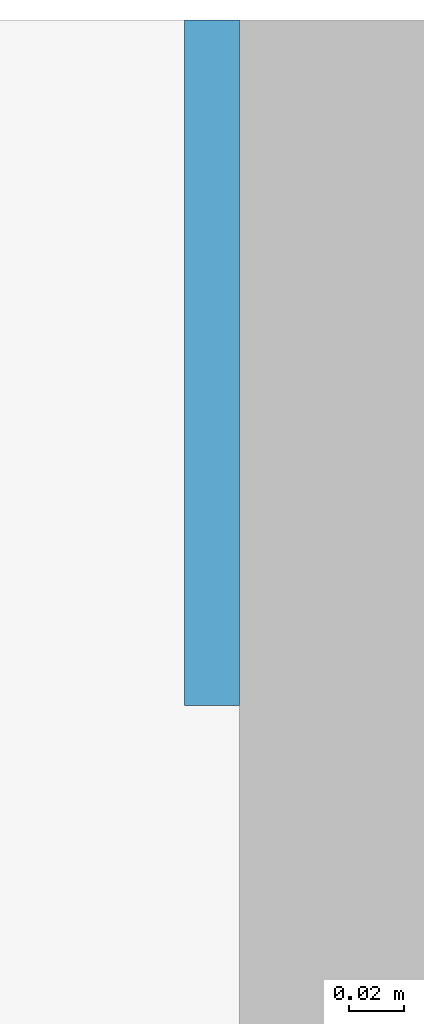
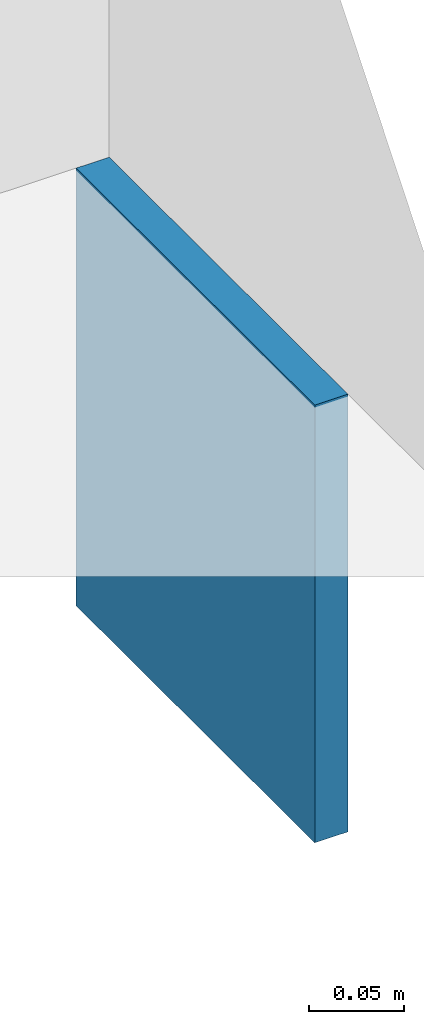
# One storey, part 8 of 8: 1 wall, 1 opening.
"""IFC2X3 building model written with IfcOpenShell, lengths in millimetres."""

import ifcopenshell
import ifcopenshell.guid

model = None  # the IFC model being written
_history = None  # IfcOwnerHistory: only IFC2X3 demands one
_inside = {}  # id of a spatial element -> (the spatial element, [elements in it])
_under = {}  # id of a project, library or spatial element -> (it, [spatial elements below it])
_declared = {}  # id of a project -> (the project, [libraries it declares])
_typed = {}  # id of a type object -> (the type object, [elements of that type])
_made_of = {}  # id of a material, layer set ... -> (it, [elements and type objects made of it])


def new_model(schema):
    """Start an empty IFC model of exactly this schema.

    Asked for "IFC4X3", IfcOpenShell would pick the latest addendum, in which some entities
    have other attributes; the version numbers below select the first issue.
    IFC2X3 requires an IfcOwnerHistory on every rooted entity: one is made here for all.
    """
    global model, _history
    if schema == "IFC4X3":
        model = ifcopenshell.file(schema_version=(4, 3, 0, 0))
    else:
        model = ifcopenshell.file(schema=schema)
    _inside.clear()
    _under.clear()
    _declared.clear()
    _typed.clear()
    _made_of.clear()
    _history = None
    if model.schema == "IFC2X3":
        org = make("IfcOrganization", Name="unknown")
        user = make(
            "IfcPersonAndOrganization",
            ThePerson=make("IfcPerson", FamilyName="unknown"),
            TheOrganization=org,
        )
        app = make(
            "IfcApplication",
            ApplicationDeveloper=org,
            Version="unknown",
            ApplicationFullName="unknown",
            ApplicationIdentifier="unknown",
        )
        _history = make(
            "IfcOwnerHistory",
            OwningUser=user,
            OwningApplication=app,
            ChangeAction="ADDED",
            CreationDate=0,
        )
    return model


def make(cls, **values):
    """One entity of the class cls with the attributes given. An attribute that is None is left unset."""
    return model.create_entity(
        cls, **{name: value for name, value in values.items() if value is not None}
    )


def entity(cls, *values):
    """Any entity or typed value of the class cls, its attributes in the order of the schema. None: left unset."""
    e = model.create_entity(cls)
    for i, value in enumerate(values):
        if value is not None:
            e[i] = value
    return e


def rooted(cls, **values):
    """An entity with a GlobalId (a new one), such as an element, a storey or a relation."""
    return make(cls, GlobalId=ifcopenshell.guid.new(), OwnerHistory=_history, **values)


def si_unit(unit_type, name, prefix=None):
    """IfcSIUnit, for example si_unit("LENGTHUNIT", "METRE", prefix="MILLI")."""
    return make("IfcSIUnit", UnitType=unit_type, Prefix=prefix, Name=name)


def converted_unit(unit_type, name, factor, base, dimensions=None, offset=None):
    """IfcConversionBasedUnit, such as the inch: factor (a typed value) times the base unit."""
    return make(
        "IfcConversionBasedUnit"
        if offset is None
        else "IfcConversionBasedUnitWithOffset",
        ConversionOffset=offset,
        Dimensions=None
        if dimensions is None
        else entity("IfcDimensionalExponents", *dimensions),
        UnitType=unit_type,
        Name=name,
        ConversionFactor=make(
            "IfcMeasureWithUnit", ValueComponent=factor, UnitComponent=base
        ),
    )


def derived_unit(unit_type, elements):
    """IfcDerivedUnit: a product of units, each with its exponent."""
    return make(
        "IfcDerivedUnit",
        Elements=[
            make("IfcDerivedUnitElement", Unit=unit, Exponent=power)
            for unit, power in elements
        ],
        UnitType=unit_type,
    )


def assignment(units):
    """IfcUnitAssignment: the units of a project."""
    return None if units is None else make("IfcUnitAssignment", Units=units)


def point(xyz):
    """IfcCartesianPoint."""
    return None if xyz is None else make("IfcCartesianPoint", Coordinates=xyz)


def direction(xyz):
    """IfcDirection."""
    return None if xyz is None else make("IfcDirection", DirectionRatios=xyz)


def frame(location, z_axis=None, x_axis=None):
    """IfcAxis2Placement3D, a coordinate frame: its origin and axes. An axis left out is left unset."""
    return make(
        "IfcAxis2Placement3D",
        Location=point(location),
        Axis=direction(z_axis),
        RefDirection=direction(x_axis),
    )


def frame_2d(location, x_axis=None):
    """IfcAxis2Placement2D, a coordinate frame in the plane: its origin and x axis."""
    return make(
        "IfcAxis2Placement2D", Location=point(location), RefDirection=direction(x_axis)
    )


def origin():
    """The frame at (0, 0, 0) with its axes left unset."""
    return frame((0.0, 0.0, 0.0))


def place(relative_to, where):
    """IfcLocalPlacement: puts the frame where relative to a parent placement (None: the world)."""
    return make(
        "IfcLocalPlacement", PlacementRelTo=relative_to, RelativePlacement=where
    )


def context(
    kind, dimensions, precision=None, world=None, true_north=None, identifier=None
):
    """IfcGeometricRepresentationContext, for example the 3D "Model" context."""
    return make(
        "IfcGeometricRepresentationContext",
        ContextIdentifier=identifier,
        ContextType=kind,
        CoordinateSpaceDimension=dimensions,
        Precision=precision,
        WorldCoordinateSystem=world,
        TrueNorth=true_north,
    )


def subcontext(parent, identifier, kind, view, scale=None):
    """IfcGeometricRepresentationSubContext, for example "Body" below "Model"."""
    return make(
        "IfcGeometricRepresentationSubContext",
        ContextIdentifier=identifier,
        ContextType=kind,
        ParentContext=parent,
        TargetScale=scale,
        TargetView=view,
    )


def project(units=None, contexts=None):
    """IfcProject with its units and contexts."""
    return rooted(
        "IfcProject",
        Name="project",
        RepresentationContexts=contexts,
        UnitsInContext=assignment(units),
    )


def spatial(cls, under=None, at=None, **own):
    """A site, building, storey or space (cls), placed at a placement, below another one or the project."""
    s = rooted(cls, ObjectPlacement=at, **own)
    if under is not None:
        _under.setdefault(under.id(), (under, []))[1].append(s)
    return s


def profile(cls, at=None, kind="AREA", **sizes):
    """A parametric profile (cls). Its sizes go by their IFC names, for example OverallWidth=200.0."""
    return make(cls, ProfileType=kind, Position=at, **sizes)


def rectangle(**sizes):
    """IfcRectangleProfileDef."""
    return profile("IfcRectangleProfileDef", **sizes)


def extrude(swept, where, along, depth):
    """IfcExtrudedAreaSolid: the profile swept, set in the frame where, extruded along a direction by depth."""
    return make(
        "IfcExtrudedAreaSolid",
        SweptArea=swept,
        Position=where,
        ExtrudedDirection=direction(along),
        Depth=depth,
    )


def shape(context_of_items, identifier, shape_type, items):
    """IfcShapeRepresentation: the items that make up one representation, for example the "Body"."""
    return make(
        "IfcShapeRepresentation",
        ContextOfItems=context_of_items,
        RepresentationIdentifier=identifier,
        RepresentationType=shape_type,
        Items=items,
    )


def material(Name=None, Category=None):
    """IfcMaterial."""
    return make("IfcMaterial", Name=Name, Category=Category)


def layer(
    of_material, thickness, ventilated=None, Name=None, Category=None, Priority=None
):
    """IfcMaterialLayer: one layer of a wall or slab, of a material (None: an air gap)."""
    return make(
        "IfcMaterialLayer",
        Material=of_material,
        LayerThickness=thickness,
        IsVentilated=ventilated,
        Name=Name,
        Category=Category,
        Priority=Priority,
    )


def layer_set(layers, Name=None):
    """IfcMaterialLayerSet."""
    return make("IfcMaterialLayerSet", MaterialLayers=layers, LayerSetName=Name)


def layer_usage(for_layer_set, set_direction, sense, offset, extent=None):
    """IfcMaterialLayerSetUsage: how a layer set lies in its element."""
    return make(
        "IfcMaterialLayerSetUsage",
        ForLayerSet=for_layer_set,
        LayerSetDirection=set_direction,
        DirectionSense=sense,
        OffsetFromReferenceLine=offset,
        ReferenceExtent=extent,
    )


def made_of(thing, what):
    """Note that an element or type object is made of a material, layer set ...; save() writes the relation."""
    if what is not None:
        _made_of.setdefault(what.id(), (what, []))[1].append(thing)
    return thing


def type_object(cls, material=None, **own):
    """A type object (cls), such as IfcWallType, which elements share."""
    return made_of(rooted(cls, **own), material)


def element(
    cls,
    number,
    at=None,
    inside=None,
    cuts=None,
    type_object=None,
    material=None,
    context=None,
    identifier="Body",
    shape_type=None,
    held_by="IfcProductDefinitionShape",
    body=None,
    shapes=None,
    **own,
):
    """One element of the class cls, such as IfcWall. Its Tag is "e" and its number.

    at: its placement. inside: the storey or other place that contains it. cuts: it is an
    opening in that element (IfcRelVoidsElement). A single representation is given by context,
    identifier, shape_type and body (its items); several are given by shapes. held_by: the class
    of the entity that holds the representations. save() writes the other relations.
    """
    e = rooted(cls, Tag="e%d" % number, ObjectPlacement=at, **own)
    if body is not None:
        shapes = [shape(context, identifier, shape_type, body)]
    if shapes is not None:
        e.Representation = make(held_by, Representations=shapes)
    if inside is not None:
        _inside.setdefault(inside.id(), (inside, []))[1].append(e)
    if cuts is not None:
        rooted(
            "IfcRelVoidsElement", RelatingBuildingElement=cuts, RelatedOpeningElement=e
        )
    if type_object is not None:
        _typed.setdefault(type_object.id(), (type_object, []))[1].append(e)
    return made_of(e, material)


def aggregate(whole, parts):
    """IfcRelAggregates: a whole, such as a stair, and the parts it consists of."""
    return rooted("IfcRelAggregates", RelatingObject=whole, RelatedObjects=parts)


def save(model, path):
    """Write the relations noted so far, then the file.

    IfcRelAggregates (storeys below a building ...), IfcRelContainedInSpatialStructure (elements
    in a storey), IfcRelDefinesByType, IfcRelAssociatesMaterial and IfcRelDeclares: one each for
    every whole, place, type object, material and project.
    """
    for whole, parts in _under.values():
        aggregate(whole, parts)
    for where, things in _inside.values():
        rooted(
            "IfcRelContainedInSpatialStructure",
            RelatedElements=things,
            RelatingStructure=where,
        )
    for kind, things in _typed.values():
        rooted("IfcRelDefinesByType", RelatedObjects=things, RelatingType=kind)
    for what, things in _made_of.values():
        rooted("IfcRelAssociatesMaterial", RelatedObjects=things, RelatingMaterial=what)
    for by, libraries in _declared.values():
        rooted("IfcRelDeclares", RelatingContext=by, RelatedDefinitions=libraries)
    model.write(path)


model = new_model("IFC2X3")

# Units and contexts
model_context = context("Model", 3, precision=0.01, world=origin(), true_north=direction((6.12303176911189e-17, 1.0)))
body_context = subcontext(model_context, "Body", "Model", "MODEL_VIEW")
ifc_project = project(units=[si_unit("LENGTHUNIT", "METRE", prefix="MILLI"), si_unit("AREAUNIT", "SQUARE_METRE"), si_unit("VOLUMEUNIT", "CUBIC_METRE"), converted_unit("PLANEANGLEUNIT", "DEGREE", entity("IfcRatioMeasure", 0.0174532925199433), si_unit("PLANEANGLEUNIT", "RADIAN"), dimensions=[0, 0, 0, 0, 0, 0, 0]), si_unit("MASSUNIT", "GRAM", prefix="KILO"), derived_unit("MASSDENSITYUNIT", [(si_unit("MASSUNIT", "GRAM", prefix="KILO"), 1), (si_unit("LENGTHUNIT", "METRE"), -3)]), si_unit("TIMEUNIT", "SECOND"), si_unit("FREQUENCYUNIT", "HERTZ"), si_unit("THERMODYNAMICTEMPERATUREUNIT", "DEGREE_CELSIUS"), derived_unit("THERMALTRANSMITTANCEUNIT", [(si_unit("MASSUNIT", "GRAM", prefix="KILO"), 1), (si_unit("THERMODYNAMICTEMPERATUREUNIT", "KELVIN"), -1), (si_unit("TIMEUNIT", "SECOND"), -3)]), derived_unit("VOLUMETRICFLOWRATEUNIT", [(si_unit("LENGTHUNIT", "METRE"), 3), (si_unit("TIMEUNIT", "SECOND"), -1)]), si_unit("ELECTRICCURRENTUNIT", "AMPERE"), si_unit("ELECTRICVOLTAGEUNIT", "VOLT"), si_unit("POWERUNIT", "WATT"), si_unit("FORCEUNIT", "NEWTON", prefix="KILO"), si_unit("ILLUMINANCEUNIT", "LUX"), si_unit("LUMINOUSFLUXUNIT", "LUMEN"), si_unit("LUMINOUSINTENSITYUNIT", "CANDELA"), derived_unit("USERDEFINED", [(si_unit("MASSUNIT", "GRAM", prefix="KILO"), -1), (si_unit("LENGTHUNIT", "METRE"), -2), (si_unit("TIMEUNIT", "SECOND"), 3), (si_unit("LUMINOUSFLUXUNIT", "LUMEN"), 1)]), derived_unit("LINEARVELOCITYUNIT", [(si_unit("LENGTHUNIT", "METRE"), 1), (si_unit("TIMEUNIT", "SECOND"), -1)]), si_unit("PRESSUREUNIT", "PASCAL"), derived_unit("USERDEFINED", [(si_unit("LENGTHUNIT", "METRE"), -2), (si_unit("MASSUNIT", "GRAM", prefix="KILO"), 1), (si_unit("TIMEUNIT", "SECOND"), -2)])], contexts=[model_context])

# Site, building, storey
site_placement = place(None, origin())
site = spatial("IfcSite", under=ifc_project, at=site_placement, Name="Default", CompositionType="ELEMENT")
building_placement = place(site_placement, origin())
building = spatial("IfcBuilding", under=site, at=building_placement, Name="niet gebruiken", CompositionType="ELEMENT")
storey_placement = place(building_placement, frame((0.0, 0.0, 36360.0)))
storey = spatial("IfcBuildingStorey", under=building, at=storey_placement, Name="12 twaalfde verdieping", CompositionType="ELEMENT", Elevation=36360.0)

# Wall, opening
ifc_material = material(Name="NLRS_f2_beton ihwg")
ifc_layer = layer(ifc_material, 250.0)
ifc_layer_set = layer_set([ifc_layer], Name="Basic Wall:NLRS_21.21_WA_beton ihwg d=250_gen")
ifc_layer_usage = layer_usage(ifc_layer_set, "AXIS2", "NEGATIVE", 125.0)
wall_type = type_object("IfcWallType", Name="Basic Wall:NLRS_21.21_WA_beton ihwg d=250_gen", PredefinedType="STANDARD", material=ifc_layer_set)
wall_placement = place(storey_placement, frame((104970.0, 53131.0, -620.0)))
wall = element("IfcWallStandardCase", 1, at=wall_placement, inside=storey, type_object=wall_type, material=ifc_layer_usage, Name="Basic Wall:NLRS_21.21_WA_beton ihwg d=250_gen", ObjectType="Basic Wall:NLRS_21.21_WA_beton ihwg d=250_gen", context=body_context, shape_type="SweptSolid", body=[
    extrude(rectangle(XDim=19.9999999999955, YDim=249.999999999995, at=frame_2d((9.99999999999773, 0.0), x_axis=(-1.0, 0.0))), origin(), (0.0, 0.0, 1.0), 280.000000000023),
])
opening_placement = place(wall_placement, origin())
element("IfcOpeningElement", 2, at=opening_placement, cuts=wall, Name="Basic Wall:NLRS_21.21_WA_beton ihwg d=250_gen", ObjectType="Opening", context=body_context, shape_type="SweptSolid", body=[
    extrude(rectangle(XDim=2440.0, YDim=2080.0, at=frame_2d((-2.1600499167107e-12, 8.64019966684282e-12), x_axis=(1.0, 0.0))), frame((-1020.0, -1649.0, -1220.0), z_axis=(0.0, 1.0, 0.0), x_axis=(0.0, 0.0, 1.0)), (0.0, 0.0, 1.0), 3048.0),
])

save(model, "model.ifc")
